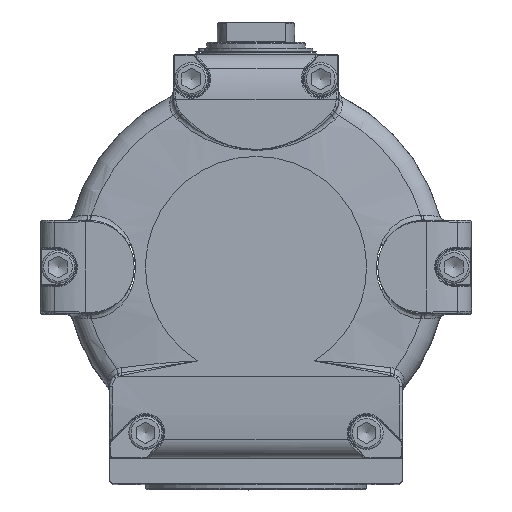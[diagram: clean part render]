
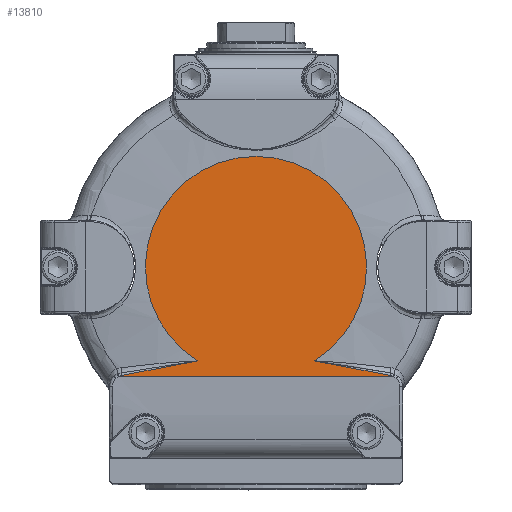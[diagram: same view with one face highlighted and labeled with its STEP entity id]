
A CAD part, top view. The second image highlights one B-rep face of the part: STEP entity #13810.
In plain terms, the highlighted planar face has unit normal (0, 0, 1).
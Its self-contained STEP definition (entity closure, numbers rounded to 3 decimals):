
#5072=CARTESIAN_POINT('',(-52.835,-84.903,283.5));
#5073=VERTEX_POINT('',#5072);
#5082=CARTESIAN_POINT('',(52.835,-84.903,283.5));
#5083=VERTEX_POINT('',#5082);
#5084=CARTESIAN_POINT('',(0.,0.,283.5));
#5085=DIRECTION('',(0.0,0.0,-1.0));
#5086=DIRECTION('',(0.0,1.0,0.0));
#5087=AXIS2_PLACEMENT_3D('',#5084,#5085,#5086);
#5088=CIRCLE('',#5087,100.0);
#5089=EDGE_CURVE('',#5073,#5083,#5088,.T.);
#10483=CARTESIAN_POINT('',(124.498,-99.186,283.5));
#10484=VERTEX_POINT('',#10483);
#10492=CARTESIAN_POINT('',(-124.498,-99.186,283.5));
#10493=VERTEX_POINT('',#10492);
#10494=CARTESIAN_POINT('',(124.498,-99.186,283.5));
#10495=DIRECTION('',(-1.0,0.0,0.0));
#10496=VECTOR('',#10495,248.995);
#10497=LINE('',#10494,#10496);
#10498=EDGE_CURVE('',#10484,#10493,#10497,.T.);
#13167=CARTESIAN_POINT('',(-121.438,-98.081,283.5));
#13168=VERTEX_POINT('',#13167);
#13169=CARTESIAN_POINT('',(-121.438,-98.081,283.5));
#13170=CARTESIAN_POINT('',(-112.304,-96.334,283.5));
#13171=CARTESIAN_POINT('',(-98.666,-93.389,283.5));
#13172=CARTESIAN_POINT('',(-75.89,-88.725,283.5));
#13173=CARTESIAN_POINT('',(-62.151,-86.264,283.5));
#13174=CARTESIAN_POINT('',(-52.911,-84.914,283.5));
#13175=CARTESIAN_POINT('',(-52.873,-84.908,283.5));
#13176=CARTESIAN_POINT('',(-52.835,-84.903,283.5));
#13177=B_SPLINE_CURVE_WITH_KNOTS('',3,(#13169,#13170,#13171,#13172,#13173,#13174,#13175,#13176),.UNSPECIFIED.,.F.,.U.,(4,1,1,2,4),(0.0,2.79,4.185,6.975,6.986),.UNSPECIFIED.);
#13178=EDGE_CURVE('',#13168,#5073,#13177,.T.);
#13234=CARTESIAN_POINT('',(-123.936,-98.896,283.5));
#13235=VERTEX_POINT('',#13234);
#13243=CARTESIAN_POINT('',(-123.936,-98.896,283.5));
#13244=CARTESIAN_POINT('',(-123.142,-98.522,283.5));
#13245=CARTESIAN_POINT('',(-122.3,-98.246,283.5));
#13246=CARTESIAN_POINT('',(-121.438,-98.081,283.5));
#13247=B_SPLINE_CURVE_WITH_KNOTS('',3,(#13243,#13244,#13245,#13246),.UNSPECIFIED.,.F.,.U.,(4,4),(0.0,0.263),.UNSPECIFIED.);
#13248=EDGE_CURVE('',#13235,#13168,#13247,.T.);
#13685=CARTESIAN_POINT('',(121.438,-98.081,283.5));
#13686=VERTEX_POINT('',#13685);
#13707=CARTESIAN_POINT('',(52.835,-84.903,283.5));
#13708=CARTESIAN_POINT('',(52.872,-84.908,283.5));
#13709=CARTESIAN_POINT('',(52.91,-84.914,283.5));
#13710=CARTESIAN_POINT('',(62.149,-86.263,283.5));
#13711=CARTESIAN_POINT('',(75.883,-88.725,283.5));
#13712=CARTESIAN_POINT('',(98.67,-93.388,283.5));
#13713=CARTESIAN_POINT('',(112.305,-96.334,283.5));
#13714=CARTESIAN_POINT('',(121.438,-98.081,283.5));
#13715=B_SPLINE_CURVE_WITH_KNOTS('',3,(#13707,#13708,#13709,#13710,#13711,#13712,#13713,#13714),.UNSPECIFIED.,.F.,.U.,(4,2,1,1,4),(-0.011,0.,2.79,4.185,6.975),.UNSPECIFIED.);
#13716=EDGE_CURVE('',#5083,#13686,#13715,.T.);
#13743=CARTESIAN_POINT('',(123.936,-98.896,283.5));
#13744=VERTEX_POINT('',#13743);
#13745=CARTESIAN_POINT('',(121.438,-98.081,283.5));
#13746=CARTESIAN_POINT('',(122.3,-98.246,283.5));
#13747=CARTESIAN_POINT('',(123.142,-98.522,283.5));
#13748=CARTESIAN_POINT('',(123.936,-98.896,283.5));
#13749=B_SPLINE_CURVE_WITH_KNOTS('',3,(#13745,#13746,#13747,#13748),.UNSPECIFIED.,.F.,.U.,(4,4),(0.,0.263),.UNSPECIFIED.);
#13750=EDGE_CURVE('',#13686,#13744,#13749,.T.);
#13771=CARTESIAN_POINT('',(0.,50.,283.5));
#13772=DIRECTION('',(0.0,0.0,1.0));
#13773=DIRECTION('',(-1.0,0.0,0.0));
#13774=AXIS2_PLACEMENT_3D('',#13771,#13772,#13773);
#13775=PLANE('',#13774);
#13776=CARTESIAN_POINT('',(-124.498,-99.186,283.5));
#13777=CARTESIAN_POINT('',(-124.475,-99.173,283.5));
#13778=CARTESIAN_POINT('',(-124.452,-99.16,283.5));
#13779=CARTESIAN_POINT('',(-124.392,-99.127,283.5));
#13780=CARTESIAN_POINT('',(-124.355,-99.107,283.5));
#13781=CARTESIAN_POINT('',(-124.258,-99.055,283.5));
#13782=CARTESIAN_POINT('',(-124.198,-99.024,283.5));
#13783=CARTESIAN_POINT('',(-124.071,-98.96,283.5));
#13784=CARTESIAN_POINT('',(-124.004,-98.928,283.5));
#13785=CARTESIAN_POINT('',(-123.936,-98.896,283.5));
#13786=B_SPLINE_CURVE_WITH_KNOTS('',3,(#13776,#13777,#13778,#13779,#13780,#13781,#13782,#13783,#13784,#13785),.UNSPECIFIED.,.F.,.U.,(4,2,2,2,4),(0.0,0.008,0.021,0.041,0.063),.UNSPECIFIED.);
#13787=EDGE_CURVE('',#10493,#13235,#13786,.T.);
#13788=ORIENTED_EDGE('',*,*,#13787,.F.);
#13789=ORIENTED_EDGE('',*,*,#10498,.F.);
#13790=CARTESIAN_POINT('',(123.936,-98.896,283.5));
#13791=CARTESIAN_POINT('',(124.004,-98.928,283.5));
#13792=CARTESIAN_POINT('',(124.071,-98.96,283.5));
#13793=CARTESIAN_POINT('',(124.198,-99.024,283.5));
#13794=CARTESIAN_POINT('',(124.258,-99.055,283.5));
#13795=CARTESIAN_POINT('',(124.355,-99.107,283.5));
#13796=CARTESIAN_POINT('',(124.392,-99.127,283.5));
#13797=CARTESIAN_POINT('',(124.452,-99.16,283.5));
#13798=CARTESIAN_POINT('',(124.475,-99.173,283.5));
#13799=CARTESIAN_POINT('',(124.498,-99.186,283.5));
#13800=B_SPLINE_CURVE_WITH_KNOTS('',3,(#13790,#13791,#13792,#13793,#13794,#13795,#13796,#13797,#13798,#13799),.UNSPECIFIED.,.F.,.U.,(4,2,2,2,4),(0.0,0.022,0.043,0.055,0.063),.UNSPECIFIED.);
#13801=EDGE_CURVE('',#13744,#10484,#13800,.T.);
#13802=ORIENTED_EDGE('',*,*,#13801,.F.);
#13803=ORIENTED_EDGE('',*,*,#13750,.F.);
#13804=ORIENTED_EDGE('',*,*,#13716,.F.);
#13805=ORIENTED_EDGE('',*,*,#5089,.F.);
#13806=ORIENTED_EDGE('',*,*,#13178,.F.);
#13807=ORIENTED_EDGE('',*,*,#13248,.F.);
#13808=EDGE_LOOP('',(#13788,#13789,#13802,#13803,#13804,#13805,#13806,#13807));
#13809=FACE_OUTER_BOUND('',#13808,.T.);
#13810=ADVANCED_FACE('',(#13809),#13775,.T.);
